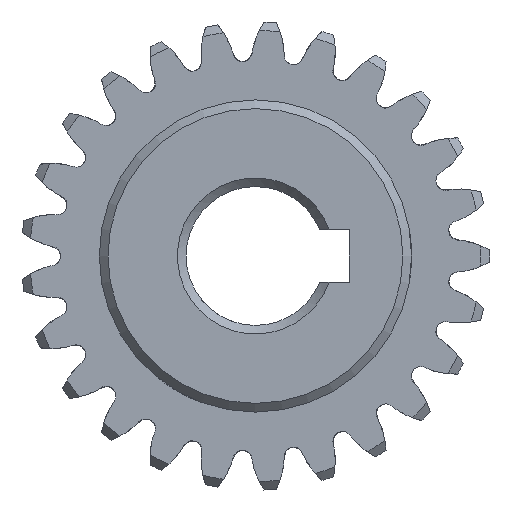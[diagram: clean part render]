
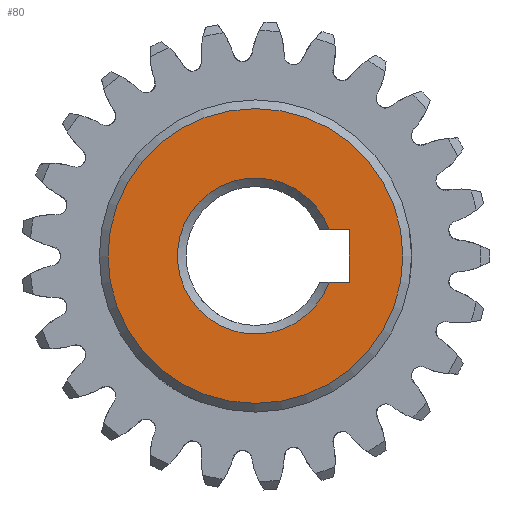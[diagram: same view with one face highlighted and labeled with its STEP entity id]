
A CAD part, left-side view. The second image highlights one B-rep face of the part: STEP entity #80.
In plain terms, the highlighted planar face has unit normal (-1, 0, 0).
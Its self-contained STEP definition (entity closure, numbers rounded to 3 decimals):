
#80=ADVANCED_FACE('',(#2001,#2003),#2005,.T.);
#2001=FACE_BOUND('',#2002,.T.);
#2002=EDGE_LOOP('',(#3394));
#2003=FACE_BOUND('',#2004,.T.);
#2004=EDGE_LOOP('',(#3395,#3396,#3397,#3398));
#2005=PLANE('',#2006);
#2006=AXIS2_PLACEMENT_3D('',#2007,#2008,#2009);
#2007=CARTESIAN_POINT('',(-10.,0.,0.));
#2008=DIRECTION('',(-1.,-0.,-0.));
#2009=DIRECTION('',(0.,0.,-1.));
#3394=ORIENTED_EDGE('',*,*,#5642,.T.);
#3395=ORIENTED_EDGE('',*,*,#5643,.T.);
#3396=ORIENTED_EDGE('',*,*,#5644,.T.);
#3397=ORIENTED_EDGE('',*,*,#5645,.T.);
#3398=ORIENTED_EDGE('',*,*,#5646,.T.);
#5642=EDGE_CURVE('',#6276,#6276,#6277,.T.);
#5643=EDGE_CURVE('',#6278,#6279,#6280,.F.);
#5644=EDGE_CURVE('',#6279,#6281,#6282,.F.);
#5645=EDGE_CURVE('',#6281,#6283,#6284,.F.);
#5646=EDGE_CURVE('',#6283,#6278,#6285,.F.);
#6276=VERTEX_POINT('',#7526);
#6277=CIRCLE('',#7527,8.5);
#6278=VERTEX_POINT('',#7531);
#6279=VERTEX_POINT('',#7532);
#6280=CIRCLE('',#7533,4.5);
#6281=VERTEX_POINT('',#7537);
#6282=LINE('',#7538,#7539);
#6283=VERTEX_POINT('',#7541);
#6284=LINE('',#7542,#7543);
#6285=LINE('',#7545,#7546);
#7526=CARTESIAN_POINT('',(-10.,0.,-8.5));
#7527=AXIS2_PLACEMENT_3D('',#7528,#7529,#7530);
#7528=CARTESIAN_POINT('',(-10.,0.,0.));
#7529=DIRECTION('',(-1.,-0.,-0.));
#7530=DIRECTION('',(0.,0.,-1.));
#7531=CARTESIAN_POINT('',(-10.,-4.243,-1.5));
#7532=CARTESIAN_POINT('',(-10.,-4.243,1.5));
#7533=AXIS2_PLACEMENT_3D('',#7534,#7535,#7536);
#7534=CARTESIAN_POINT('',(-10.,0.,0.));
#7535=DIRECTION('',(-1.,-0.,0.));
#7536=DIRECTION('',(0.,-0.943,0.333));
#7537=CARTESIAN_POINT('',(-10.,-5.4,1.5));
#7538=CARTESIAN_POINT('',(-10.,-5.4,1.5));
#7539=VECTOR('',#7540,1.);
#7540=DIRECTION('',(0.,1.,0.));
#7541=CARTESIAN_POINT('',(-10.,-5.4,-1.5));
#7542=CARTESIAN_POINT('',(-10.,-5.4,-1.5));
#7543=VECTOR('',#7544,1.);
#7544=DIRECTION('',(0.,0.,1.));
#7545=CARTESIAN_POINT('',(-10.,-4.243,-1.5));
#7546=VECTOR('',#7547,1.);
#7547=DIRECTION('',(0.,-1.,0.));
